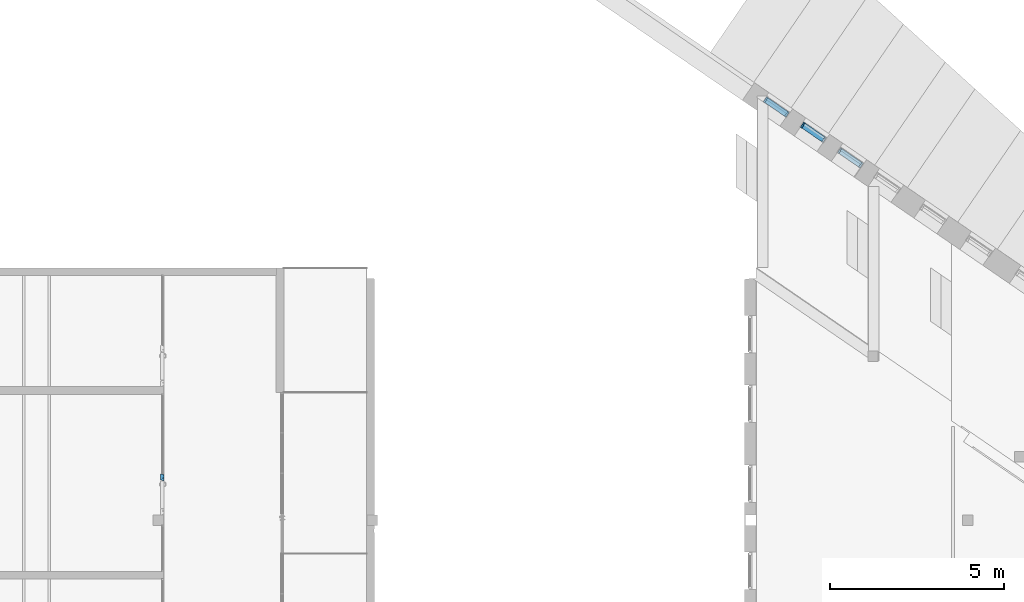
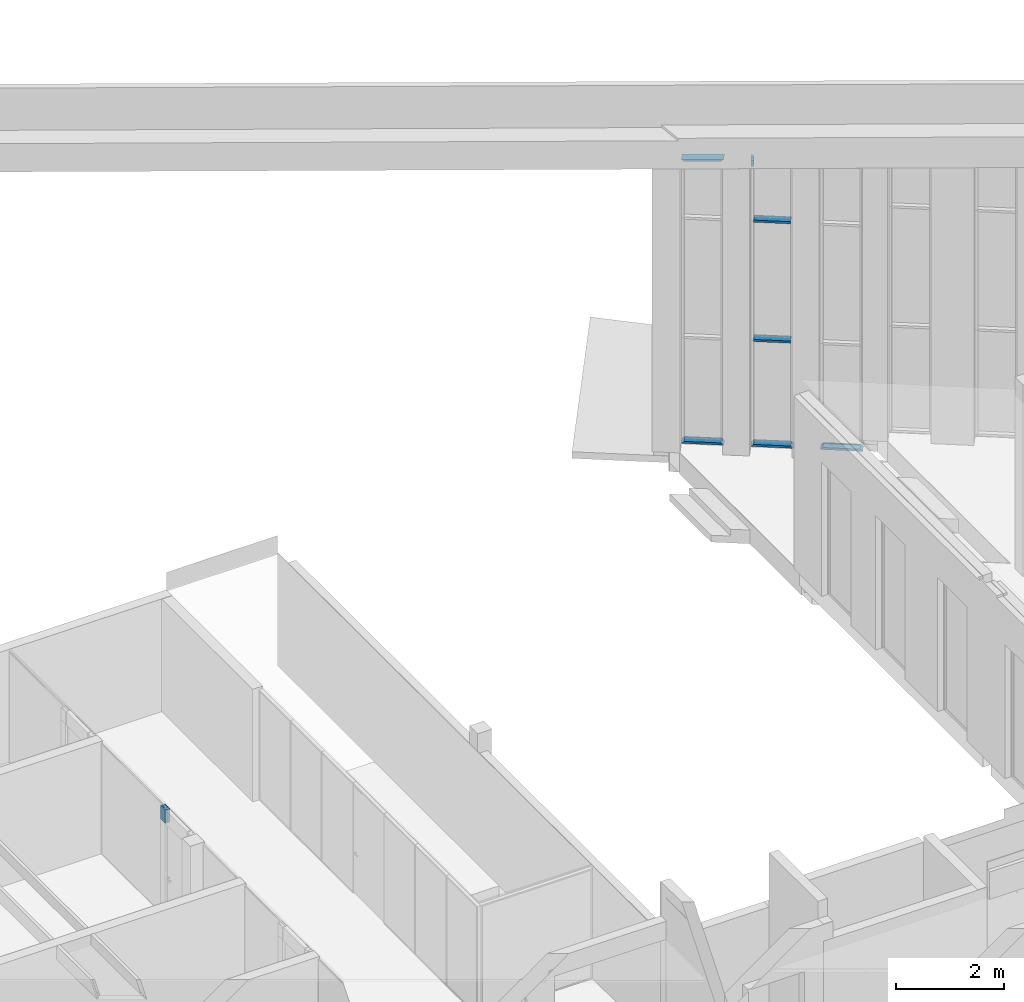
# One storey, part 28 of 79: 8 members, 4 elements without a shape of their own.
"""IFC2X3 building model written with IfcOpenShell, lengths in millimetres."""

from ifc_helpers import new_model, entity, si_unit, converted_unit, derived_unit, money_unit, direction, frame, origin_with_axes, place, context, subcontext, project, spatial, faceted_brep, material, material_list, type_object, element, aggregate, save


model = new_model("IFC2X3")

# Units and contexts
model_context = context("Model", 3, precision=0.01, world=origin_with_axes(), true_north=direction((0.0, 1.0)))
body_context = subcontext(model_context, "Body", "Model", "MODEL_VIEW")
ifc_project = project(units=[si_unit("LENGTHUNIT", "METRE", prefix="MILLI"), si_unit("AREAUNIT", "SQUARE_METRE"), si_unit("VOLUMEUNIT", "CUBIC_METRE"), converted_unit("PLANEANGLEUNIT", "DEGREE", entity("IfcPlaneAngleMeasure", 0.0174532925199), si_unit("PLANEANGLEUNIT", "RADIAN"), dimensions=[0, 0, 0, 0, 0, 0, 0]), si_unit("SOLIDANGLEUNIT", "STERADIAN"), money_unit("EUR"), converted_unit("TIMEUNIT", "Year", entity("IfcTimeMeasure", 31556926.0), si_unit("TIMEUNIT", "SECOND"), dimensions=[0, 0, 1, 0, 0, 0, 0]), si_unit("MASSUNIT", "GRAM", prefix="KILO"), si_unit("THERMODYNAMICTEMPERATUREUNIT", "DEGREE_CELSIUS"), si_unit("LUMINOUSINTENSITYUNIT", "LUMEN"), si_unit("ENERGYUNIT", "JOULE", prefix="MEGA"), derived_unit("THERMALCONDUCTANCEUNIT", [(si_unit("POWERUNIT", "WATT"), 1), (si_unit("LENGTHUNIT", "METRE"), -1), (si_unit("THERMODYNAMICTEMPERATUREUNIT", "KELVIN"), -1)]), derived_unit("SPECIFICHEATCAPACITYUNIT", [(si_unit("ENERGYUNIT", "JOULE"), 1), (si_unit("MASSUNIT", "GRAM", prefix="KILO"), -1), (si_unit("THERMODYNAMICTEMPERATUREUNIT", "KELVIN"), -1)]), derived_unit("MASSDENSITYUNIT", [(si_unit("MASSUNIT", "GRAM", prefix="KILO"), 1), (si_unit("VOLUMEUNIT", "CUBIC_METRE"), -1)])], contexts=[model_context])

# Site, building, storey
site_placement = place(None, origin_with_axes())
site = spatial("IfcSite", under=ifc_project, at=site_placement, Name="L.Koidula tn 11b", CompositionType="ELEMENT")
building_placement = place(site_placement, origin_with_axes())
building = spatial("IfcBuilding", under=site, at=building_placement, Name="Rakvere Riigigümnaasium", CompositionType="ELEMENT")
storey_placement = place(building_placement, frame((0.0, 0.0, 3720.0), z_axis=(0.0, 0.0, 1.0), x_axis=(1.0, 0.0, 0.0)))
storey = spatial("IfcBuildingStorey", under=building, at=storey_placement, Name="2.korrus +3,72", CompositionType="ELEMENT", Elevation=3720.0)

# Curtain wall, members
curtain_wall_type = type_object("IfcCurtainWallType", Name="Curtain Wall Type", PredefinedType="NOTDEFINED")
curtain_wall_1_placement = place(storey_placement, frame((59849.7544247, 35428.7459613, -1860.00000854), z_axis=(0.0, 0.0, 1.0), x_axis=(1.0, 0.0, 0.0)))
curtain_wall_1 = element("IfcCurtainWall", 1, at=curtain_wall_1_placement, inside=storey, type_object=curtain_wall_type, Name="KLF-06-20")
ifc_material_1 = material(Name="Alumiiniumprofiil (RAL 7021)")
member_type_1 = type_object("IfcMemberType", Name="Transom Frame 50 x 170", PredefinedType="MULLION")
member_1_placement = place(curtain_wall_1_placement, frame((-325.751174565, 223.425259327, 5100.00006547), z_axis=(0.824666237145, -0.565619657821, 0.0), x_axis=(0.0, 0.0, 1.0)))
member_1 = element("IfcMember", 2, at=member_1_placement, type_object=member_type_1, material=ifc_material_1, Name="KLF-06-27-Profiilid", ObjectType="MULLION", context=body_context, shape_type="Brep", body=[
    faceted_brep([(-12.0, 26.0, 739.880787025), (-12.0, -26.0, 739.880787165), (-25.0, -26.0, 739.880787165), (-25.0, -46.0, 739.880787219), (25.0, -46.0, 739.880787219), (25.0, -26.0, 739.880787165), (12.0, -26.0, 739.880787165), (12.0, 26.0, 739.880787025), (25.0, 26.0, 739.880787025), (25.0, 124.0, 739.880786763), (-25.0, 124.0, 739.880786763), (-25.0, 26.0, 739.880787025), (-12.0, 26.0, 50.0025130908), (-12.0, -26.0, 49.9974873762), (-25.0, -26.0, 49.9974873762), (-25.0, -46.0, 49.9955544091), (25.0, -46.0, 49.9955544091), (25.0, -26.0, 49.9974873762), (12.0, -26.0, 49.9974873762), (12.0, 26.0, 50.0025130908), (25.0, 26.0, 50.0025130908), (25.0, 124.0, 50.0119846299), (-25.0, 124.0, 50.0119846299), (-25.0, 26.0, 50.0025130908)], [[[0, 1, 2, 3, 4, 5, 6, 7, 8, 9, 10, 11]], [[0, 12, 13, 1]], [[1, 13, 14, 2]], [[14, 15, 3, 2]], [[4, 3, 15, 16]], [[17, 5, 4, 16]], [[5, 17, 18, 6]], [[7, 6, 18, 19]], [[8, 7, 19, 20]], [[8, 20, 21, 9]], [[10, 9, 21, 22]], [[11, 10, 22, 23]], [[11, 23, 12, 0]], [[13, 12, 23, 22, 21, 20, 19, 18, 17, 16, 15, 14]]]),
])
member_2_placement = place(curtain_wall_1_placement, frame((-325.522429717, 223.268368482, 2400.00006547), z_axis=(0.824666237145, -0.565619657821, 0.0), x_axis=(0.0, 0.0, 1.0)))
member_2 = element("IfcMember", 3, at=member_2_placement, type_object=member_type_1, material=ifc_material_1, Name="KLF-06-28-Profiilid", ObjectType="MULLION", context=body_context, shape_type="Brep", body=[
    faceted_brep([(-12.0, 26.0, 739.60331099), (-12.0, -26.0, 739.603312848), (-25.0, -26.0, 739.603312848), (-25.0, -46.0, 739.603313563), (25.0, -46.0, 739.603313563), (25.0, -26.0, 739.603312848), (12.0, -26.0, 739.603312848), (12.0, 26.0, 739.60331099), (25.0, 26.0, 739.60331099), (25.0, 124.0, 739.603307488), (-25.0, 124.0, 739.603307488), (-25.0, 26.0, 739.60331099), (-12.0, 26.0, 50.0012330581), (-12.0, -26.0, 50.0012330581), (-25.0, -26.0, 50.0025685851), (-25.0, -46.0, 50.0025685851), (25.0, -46.0, 49.9974319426), (25.0, -26.0, 49.9974319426), (12.0, -26.0, 49.9987674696), (12.0, 26.0, 49.9987674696), (25.0, 26.0, 49.9974319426), (25.0, 124.0, 49.9974319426), (-25.0, 124.0, 50.0025685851), (-25.0, 26.0, 50.0025685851)], [[[0, 1, 2, 3, 4, 5, 6, 7, 8, 9, 10, 11]], [[0, 12, 13, 1]], [[1, 13, 14, 2]], [[14, 15, 3, 2]], [[4, 3, 15, 16]], [[17, 5, 4, 16]], [[5, 17, 18, 6]], [[7, 6, 18, 19]], [[8, 7, 19, 20]], [[8, 20, 21, 9]], [[10, 9, 21, 22]], [[11, 10, 22, 23]], [[11, 23, 12, 0]], [[13, 12, 23, 22, 21, 20, 19, 18, 17, 16, 15, 14]]]),
])

curtain_wall_2_placement = place(storey_placement, frame((58784.8898209, 36159.1031473, -1860.00002162), z_axis=(0.0, 0.0, 1.0), x_axis=(1.0, 0.0, 0.0)))
curtain_wall_2 = element("IfcCurtainWall", 4, at=curtain_wall_2_placement, inside=storey, type_object=curtain_wall_type, Name="KLF-06-21")
member_type_2 = type_object("IfcMemberType", Name="Boundary Frame 50 x 170", PredefinedType="MULLION")
member_3_placement = place(curtain_wall_2_placement, frame((-325.567701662, 223.299419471, 0.0), z_axis=(0.824666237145, -0.565619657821, 0.0), x_axis=(0.0, 0.0, 1.0)))
member_3 = element("IfcMember", 5, at=member_3_placement, type_object=member_type_2, material=ifc_material_1, Name="KLF-06-47-Profiilid", ObjectType="MULLION", context=body_context, shape_type="Brep", body=[
    faceted_brep([(37.0, 26.0, 752.574268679), (50.0, 26.0, 739.574268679), (50.0, 124.0, 739.574268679), (0.0, 124.0, 789.574268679), (0.0, -46.0, 789.574268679), (50.0, -46.0, 739.574268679), (50.0, -26.0, 739.574268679), (37.0, -26.0, 752.574268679), (37.0, 26.0, 37.0000014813), (50.0, 26.0, 50.0000020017), (50.0, 124.0, 50.0000020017), (0.0, 124.0, 0.0), (0.0, -46.0, 0.0), (50.0, -46.0, 50.0000020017), (50.0, -26.0, 50.0000020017), (37.0, -26.0, 37.0000014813)], [[[0, 1, 2, 3, 4, 5, 6, 7]], [[0, 8, 9, 1]], [[9, 10, 2, 1]], [[2, 10, 11, 3]], [[3, 11, 12, 4]], [[4, 12, 13, 5]], [[6, 5, 13, 14]], [[14, 15, 7, 6]], [[7, 15, 8, 0]], [[8, 15, 14, 13, 12, 11, 10, 9]]]),
])
member_4_placement = place(curtain_wall_2_placement, frame((325.567593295, -223.299345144, 6470.95663385), z_axis=(-0.823213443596, 0.564623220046, -0.0593316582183), x_axis=(0.0489288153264, -0.0335591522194, -0.998238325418)))
member_4 = element("IfcMember", 6, at=member_4_placement, type_object=member_type_2, material=ifc_material_1, Name="KLF-06-51-Profiilid", ObjectType="MULLION", context=body_context, shape_type="Brep", body=[
    faceted_brep([(37.0, 26.0, 756.101544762), (50.0, 26.0, 743.851274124), (50.0, 124.0, 743.851274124), (0.0, 124.0, 790.967699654), (0.0, -46.0, 790.967699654), (50.0, -46.0, 743.851274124), (50.0, -26.0, 743.851274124), (37.0, -26.0, 756.101544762), (37.0, 26.0, 39.2644422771), (50.0, 26.0, 53.0600571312), (50.0, 124.0, 53.0600571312), (0.0, 124.0, 0.0), (0.0, -46.0, 0.0), (50.0, -46.0, 53.0600571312), (50.0, -26.0, 53.0600571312), (37.0, -26.0, 39.2644422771)], [[[0, 1, 2, 3, 4, 5, 6, 7]], [[0, 8, 9, 1]], [[9, 10, 2, 1]], [[2, 10, 11, 3]], [[3, 11, 12, 4]], [[4, 12, 13, 5]], [[6, 5, 13, 14]], [[14, 15, 7, 6]], [[7, 15, 8, 0]], [[8, 15, 14, 13, 12, 11, 10, 9]]]),
])
aggregate(curtain_wall_2, [member_3, member_4])

# Member
member_5_placement = place(curtain_wall_1_placement, frame((-325.331139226, 223.137166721, 0.0), z_axis=(0.824666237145, -0.565619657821, 0.0), x_axis=(0.0, 0.0, 1.0)))
member_5 = element("IfcMember", 7, at=member_5_placement, type_object=member_type_2, material=ifc_material_1, Name="KLF-06-47-Profiilid", ObjectType="MULLION", context=body_context, shape_type="Brep", body=[
    faceted_brep([(37.0, 26.0, 752.371350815), (50.0, 26.0, 739.371350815), (50.0, 124.0, 739.371350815), (0.0, 124.0, 789.371350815), (0.0, -46.0, 789.371350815), (50.0, -46.0, 739.371350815), (50.0, -26.0, 739.371350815), (37.0, -26.0, 752.371350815), (37.0, 26.0, 36.9964241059), (50.0, 26.0, 49.9951677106), (50.0, 124.0, 49.9951677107), (0.0, 124.0, 0.0), (0.0, -46.0, 0.0), (50.0, -46.0, 49.9951677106), (50.0, -26.0, 49.9951677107), (37.0, -26.0, 36.9964241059)], [[[0, 1, 2, 3, 4, 5, 6, 7]], [[0, 8, 9, 1]], [[9, 10, 2, 1]], [[2, 10, 11, 3]], [[3, 11, 12, 4]], [[4, 12, 13, 5]], [[6, 5, 13, 14]], [[14, 15, 7, 6]], [[7, 15, 8, 0]], [[8, 15, 14, 13, 12, 11, 10, 9]]]),
])

member_6_placement = place(curtain_wall_1_placement, frame((-325.849222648, 223.492508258, 6500.75493294), z_axis=(-2.72531671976e-07, 1.86923242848e-07, -1.0), x_axis=(0.824666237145, -0.565619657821, -3.3047512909e-07)))
member_6 = element("IfcMember", 8, at=member_6_placement, type_object=member_type_2, material=ifc_material_1, Name="KLF-06-52-Profiilid", ObjectType="MULLION", context=body_context, shape_type="Brep", body=[
    faceted_brep([(37.0000561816, 26.0, 170.002362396), (50.0000561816, 26.0, 170.0023581), (50.0000561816, 124.0, 170.0023581), (5.61815554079e-05, 124.0, 170.002374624), (5.61815554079e-05, -46.0, 170.002374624), (50.0000561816, -46.0, 170.0023581), (50.0000561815, -26.0, 170.0023581), (37.0000561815, -26.0, 170.002362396), (37.0000115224, 26.0, 34.8661271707), (50.0000155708, 26.0, 47.1163880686), (50.0000155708, 124.0, 47.1163880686), (0.0, 124.0, 0.0), (0.0, -46.0, 0.0), (50.0000155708, -46.0, 47.1163880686), (50.0000155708, -26.0, 47.1163880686), (37.0000115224, -26.0, 34.8661271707)], [[[0, 1, 2, 3, 4, 5, 6, 7]], [[0, 8, 9, 1]], [[9, 10, 2, 1]], [[2, 10, 11, 3]], [[3, 11, 12, 4]], [[4, 12, 13, 5]], [[6, 5, 13, 14]], [[14, 15, 7, 6]], [[7, 15, 8, 0]], [[8, 15, 14, 13, 12, 11, 10, 9]]]),
])

aggregate(curtain_wall_1, [member_1, member_2, member_5, member_6])

# Curtain wall, member
curtain_wall_3_placement = place(storey_placement, frame((60913.4534613, 34699.1792069, -1860.00008737), z_axis=(0.0, 0.0, 1.0), x_axis=(1.0, 0.0, 0.0)))
curtain_wall_3 = element("IfcCurtainWall", 9, at=curtain_wall_3_placement, inside=storey, type_object=curtain_wall_type, Name="KLF-06-19")
member_7_placement = place(curtain_wall_3_placement, frame((-325.743105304, 223.419724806, 0.0), z_axis=(0.824666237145, -0.565619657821, 0.0), x_axis=(0.0, 0.0, 1.0)))
member_7 = element("IfcMember", 10, at=member_7_placement, type_object=member_type_2, material=ifc_material_1, Name="KLF-06-62-Profiilid", ObjectType="MULLION", context=body_context, shape_type="Brep", body=[
    faceted_brep([(37.0, 26.0, 752.999673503), (50.0, 26.0, 739.999674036), (50.0, 124.0, 739.999674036), (0.0, 124.0, 789.999671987), (0.0, -46.0, 789.999671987), (50.0, -46.0, 739.999674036), (50.0, -26.0, 739.999674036), (37.0, -26.0, 752.999673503), (37.0, 26.0, 37.0), (50.0, 26.0, 50.0), (50.0, 124.0, 50.0), (0.0, 124.0, 0.0), (0.0, -46.0, 0.0), (50.0, -46.0, 50.0), (50.0, -26.0, 50.0), (37.0, -26.0, 37.0)], [[[0, 1, 2, 3, 4, 5, 6, 7]], [[0, 8, 9, 1]], [[9, 10, 2, 1]], [[2, 10, 11, 3]], [[3, 11, 12, 4]], [[4, 12, 13, 5]], [[6, 5, 13, 14]], [[14, 15, 7, 6]], [[7, 15, 8, 0]], [[8, 15, 14, 13, 12, 11, 10, 9]]]),
])
aggregate(curtain_wall_3, [member_7])

curtain_wall_4_placement = place(storey_placement, frame((41130.915445, 24920.4555468, 0.0), z_axis=(0.0, 0.0, 1.0), x_axis=(1.0, 0.0, 0.0)))
curtain_wall_4 = element("IfcCurtainWall", 11, at=curtain_wall_4_placement, inside=storey, type_object=curtain_wall_type, Name="SKLF-15")
ifc_material_2 = material(Name="Puit")
ifc_material_3 = material(Name="MDF")
ifc_material_4 = material(Name="Klaasvill")
ifc_material_5 = material(Name="Alumiiniumprofiil")
ifc_material_list = material_list([ifc_material_2, ifc_material_3, ifc_material_4, ifc_material_5])
member_type_3 = type_object("IfcMemberType", Name="Siseklaasfassaad - Ukseraam-2 195 x 29", PredefinedType="MULLION")
member_8_placement = place(curtain_wall_4_placement, frame((0.021911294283, 519.999999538, 2200.0), z_axis=(0.0, 0.0, 1.0), x_axis=(-4.21371043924e-05, -0.999999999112, 0.0)))
member_8 = element("IfcMember", 12, at=member_8_placement, type_object=member_type_3, material=ifc_material_list, Name="Frame-Siseklaasf-005", ObjectType="MULLION", context=body_context, shape_type="Brep", body=[
    faceted_brep([(0.0, -50.8404412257, 0.0), (0.0, -50.8404412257, 308.0), (0.0, 15.2764635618, 308.0), (0.0, 15.2764635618, 0.0), (29.9999995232, -50.8404412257, 0.0), (29.9999995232, -50.8404412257, 308.0), (30.0000008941, -23.8404411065, 308.0), (41.9954210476, -23.8404411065, 308.0), (41.9954210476, 8.15955847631, 308.0), (41.9954210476, 15.2764635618, 308.0), (41.8573788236, 15.2764635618, 308.0), (41.8573788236, 15.2764635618, 0.0), (41.9954210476, 15.2764635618, 0.0), (41.9954210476, 8.15955847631, 0.0), (41.9954210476, -23.8404411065, 0.0), (30.0000008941, -23.8404411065, 0.0)], [[[0, 1, 2, 3]], [[4, 5, 1, 0]], [[1, 5, 6, 7, 8, 9, 10, 2]], [[3, 2, 10, 11]], [[0, 3, 11, 12, 13, 14, 15, 4]], [[15, 6, 5, 4]], [[14, 7, 6, 15]], [[13, 8, 7, 14]], [[12, 9, 8, 13]], [[11, 10, 9, 12]]]),
    faceted_brep([(-137.859682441, 21.159534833, 0.0), (-137.859682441, 21.159534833, 308.0), (-137.859682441, 29.159535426, 308.0), (-137.859682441, 29.159535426, 0.0), (-30.0029064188, 21.1595377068, 0.0), (-30.0029064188, 21.1595377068, 308.0), (52.9999994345, 21.1595377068, 308.0), (52.9999994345, 29.1595584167, 308.0), (52.9999994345, 29.1595584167, 0.0), (52.9999994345, 21.1595377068, 0.0)], [[[0, 1, 2, 3]], [[4, 5, 1, 0]], [[1, 5, 6, 7, 2]], [[3, 2, 7, 8]], [[0, 3, 8, 9, 4]], [[9, 6, 5, 4]], [[8, 7, 6, 9]]]),
    faceted_brep([(-137.859682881, -54.8404422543, 0.0), (-137.859682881, -54.8404422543, 308.0), (-121.188402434, -54.8405744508, 308.0), (-121.188402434, -54.8405744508, 0.0), (-137.859682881, -62.8404399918, 0.0), (-137.859682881, -62.8404399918, 308.0), (28.0000003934, -62.8404428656, 308.0), (28.0000003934, -54.8404422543, 308.0), (1.12772013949e-06, -54.8404422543, 308.0), (-30.0029066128, -54.8404422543, 308.0), (-109.859683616, -54.8405744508, 308.0), (-109.859683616, -54.8405744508, 0.0), (-30.0029066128, -54.8404422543, 0.0), (1.12772013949e-06, -54.8404422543, 0.0), (28.0000003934, -54.8404422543, 0.0), (28.0000003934, -62.8404428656, 0.0)], [[[0, 1, 2, 3]], [[4, 5, 1, 0]], [[1, 5, 6, 7, 8, 9, 10, 2]], [[3, 2, 10, 11]], [[0, 3, 11, 12, 13, 14, 15, 4]], [[15, 6, 5, 4]], [[14, 7, 6, 15]], [[13, 8, 7, 14]], [[12, 9, 8, 13]], [[11, 10, 9, 12]]]),
    faceted_brep([(-120.859682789, -33.3330734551, 0.0), (-120.859682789, -33.3330734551, 308.0), (-120.859682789, -20.34054937, 308.0), (-120.859682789, -20.34054937, 0.0), (-30.0029064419, -33.3311238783, 0.0), (-30.0029064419, -33.3311238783, 308.0), (-30.0029050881, -20.3386011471, 308.0), (-107.859682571, -20.338601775, 308.0), (-107.859682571, -20.338601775, 0.0), (-30.0029050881, -20.3386011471, 0.0)], [[[0, 1, 2, 3]], [[4, 5, 1, 0]], [[1, 5, 6, 7, 2]], [[3, 2, 7, 8]], [[0, 3, 8, 9, 4]], [[9, 6, 5, 4]], [[8, 7, 6, 9]]]),
    faceted_brep([(-120.859682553, -49.8405506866, 0.0), (-120.859682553, -49.8405506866, 308.0), (-120.859682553, -36.8405491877, 308.0), (-120.859682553, -36.8405491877, 0.0), (-109.8596833, -49.8405506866, 0.0), (-109.8596833, -49.8405506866, 308.0), (-30.0046927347, -49.8404410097, 308.0), (-30.0046927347, -36.8404411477, 308.0), (-30.0046927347, -36.8404411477, 0.0), (-30.0046927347, -49.8404410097, 0.0)], [[[0, 1, 2, 3]], [[4, 5, 1, 0]], [[1, 5, 6, 7, 2]], [[3, 2, 7, 8]], [[0, 3, 8, 9, 4]], [[9, 6, 5, 4]], [[8, 7, 6, 9]]]),
    faceted_brep([(-107.859682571, -20.338601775, 0.0), (-107.859682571, -20.338601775, 308.0), (-107.859682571, 5.15955767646, 308.0), (-107.859682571, 5.15955767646, 0.0), (-30.0029050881, -20.338601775, 0.0), (-30.0029050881, -20.338601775, 308.0), (-30.0029050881, -5.24044086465, 308.0), (-30.0029050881, 15.1595587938, 308.0), (-30.0029050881, 17.1595580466, 308.0), (-89.8596820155, 17.1595604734, 308.0), (-107.859682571, 17.1595604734, 308.0), (-107.859682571, 11.1594268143, 308.0), (-107.859682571, 11.1594268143, 0.0), (-107.859682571, 17.1595604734, 0.0), (-89.8596820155, 17.1595604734, 0.0), (-30.0029050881, 17.1595580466, 0.0), (-30.0029050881, 15.1595587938, 0.0), (-30.0029050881, -5.24044086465, 0.0)], [[[0, 1, 2, 3]], [[4, 5, 1, 0]], [[1, 5, 6, 7, 8, 9, 10, 11, 2]], [[3, 2, 11, 12]], [[0, 3, 12, 13, 14, 15, 16, 17, 4]], [[17, 6, 5, 4]], [[16, 7, 6, 17]], [[15, 8, 7, 16]], [[14, 9, 8, 15]], [[13, 10, 9, 14]], [[12, 11, 10, 13]]]),
    faceted_brep([(-30.0029058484, -54.8404413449, 0.0), (-30.0029058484, -54.8404413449, 308.0), (-30.0046927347, -49.8404410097, 308.0), (-30.0046927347, -49.8404410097, 0.0), (0.0, -54.8404413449, 0.0), (0.0, -54.8404413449, 308.0), (27.9999994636, -54.8404413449, 308.0), (27.9999994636, -62.8404415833, 308.0), (29.9999995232, -62.8404415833, 308.0), (29.9999995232, -54.8404413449, 308.0), (29.9999995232, -50.8404412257, 308.0), (0.0, -50.8404412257, 308.0), (0.0, 15.2764635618, 308.0), (41.8573788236, 15.2764635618, 308.0), (41.8573788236, 17.1595580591, 308.0), (54.9999995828, 17.1595580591, 308.0), (54.9999995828, 20.2336043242, 308.0), (54.9999995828, 29.1595584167, 308.0), (53.0000007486, 29.1595584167, 308.0), (53.0000007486, 21.1595363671, 308.0), (-30.0029058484, 21.1595363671, 308.0), (-30.0029050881, 17.1595580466, 308.0), (-30.0029058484, 15.1595579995, 308.0), (-12.999999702, 15.1595579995, 308.0), (-12.999999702, -5.24044206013, 308.0), (-30.0029058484, -5.24044206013, 308.0), (-30.0029050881, -20.3386011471, 308.0), (-30.0029064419, -33.3311238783, 308.0), (-30.0046927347, -36.8404411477, 308.0), (-30.0046927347, -36.8404411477, 0.0), (-30.0029064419, -33.3311238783, 0.0), (-30.0029050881, -20.3386011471, 0.0), (-30.0029058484, -5.24044206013, 0.0), (-12.999999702, -5.24044206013, 0.0), (-12.999999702, 15.1595579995, 0.0), (-30.0029058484, 15.1595579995, 0.0), (-30.0029050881, 17.1595580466, 0.0), (-30.0029058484, 21.1595363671, 0.0), (53.0000007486, 21.1595363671, 0.0), (53.0000007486, 29.1595584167, 0.0), (54.9999995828, 29.1595584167, 0.0), (54.9999995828, 20.2336043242, 0.0), (54.9999995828, 17.1595580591, 0.0), (41.8573788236, 17.1595580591, 0.0), (41.8573788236, 15.2764635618, 0.0), (0.0, 15.2764635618, 0.0), (0.0, -50.8404412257, 0.0), (29.9999995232, -50.8404412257, 0.0), (29.9999995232, -54.8404413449, 0.0), (29.9999995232, -62.8404415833, 0.0), (27.9999994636, -62.8404415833, 0.0), (27.9999994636, -54.8404413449, 0.0)], [[[0, 1, 2, 3]], [[4, 5, 1, 0]], [[1, 5, 6, 7, 8, 9, 10, 11, 12, 13, 14, 15, 16, 17, 18, 19, 20, 21, 22, 23, 24, 25, 26, 27, 28, 2]], [[3, 2, 28, 29]], [[0, 3, 29, 30, 31, 32, 33, 34, 35, 36, 37, 38, 39, 40, 41, 42, 43, 44, 45, 46, 47, 48, 49, 50, 51, 4]], [[51, 6, 5, 4]], [[50, 7, 6, 51]], [[49, 8, 7, 50]], [[48, 9, 8, 49]], [[47, 10, 9, 48]], [[46, 11, 10, 47]], [[45, 12, 11, 46]], [[44, 13, 12, 45]], [[43, 14, 13, 44]], [[42, 15, 14, 43]], [[41, 16, 15, 42]], [[40, 17, 16, 41]], [[39, 18, 17, 40]], [[38, 19, 18, 39]], [[37, 20, 19, 38]], [[36, 21, 20, 37]], [[35, 22, 21, 36]], [[34, 23, 22, 35]], [[33, 24, 23, 34]], [[32, 25, 24, 33]], [[31, 26, 25, 32]], [[30, 27, 26, 31]], [[29, 28, 27, 30]]]),
    faceted_brep([(-139.859682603, -62.8404415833, 0.0), (-139.859682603, -62.8404415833, 308.0), (-139.859682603, -15.2404414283, 308.0), (-139.859682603, -15.2404414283, 0.0), (-137.859683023, -62.8404415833, 0.0), (-137.859683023, -62.8404415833, 308.0), (-137.859681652, -54.8405734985, 308.0), (-121.188400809, -54.8405734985, 308.0), (-109.859683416, -54.8405734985, 308.0), (-109.859683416, -53.8404414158, 308.0), (-109.859683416, -49.8405505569, 308.0), (-120.859681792, -49.8405505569, 308.0), (-120.859682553, -36.8405491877, 308.0), (-120.859682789, -33.3330734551, 308.0), (-120.859682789, -20.34054937, 308.0), (-120.859681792, -17.2404410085, 308.0), (-107.859682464, -17.2404410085, 308.0), (-107.859682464, 5.1595578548, 308.0), (-107.859682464, 11.1594263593, 308.0), (-107.859682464, 17.1595594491, 308.0), (-89.8596821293, 17.1595594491, 308.0), (-89.8596821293, 19.1595576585, 308.0), (-107.859682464, 19.1595576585, 308.0), (-109.859682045, 19.1595576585, 308.0), (-109.859682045, 17.1595594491, 308.0), (-109.859682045, 11.1594263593, 308.0), (-137.859681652, 11.1594263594, 308.0), (-137.859682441, 21.159534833, 308.0), (-137.859681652, 29.1595363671, 308.0), (-139.859682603, 29.1595363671, 308.0), (-139.859682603, 5.1595578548, 308.0), (-137.859681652, 5.1595578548, 308.0), (-122.859682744, 5.1595578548, 308.0), (-122.859682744, -15.2404414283, 308.0), (-122.859682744, -15.2404414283, 0.0), (-122.859682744, 5.1595578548, 0.0), (-137.859681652, 5.1595578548, 0.0), (-139.859682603, 5.1595578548, 0.0), (-139.859682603, 29.1595363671, 0.0), (-137.859681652, 29.1595363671, 0.0), (-137.859682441, 21.159534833, 0.0), (-137.859681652, 11.1594263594, 0.0), (-109.859682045, 11.1594263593, 0.0), (-109.859682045, 17.1595594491, 0.0), (-109.859682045, 19.1595576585, 0.0), (-107.859682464, 19.1595576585, 0.0), (-89.8596821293, 19.1595576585, 0.0), (-89.8596821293, 17.1595594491, 0.0), (-107.859682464, 17.1595594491, 0.0), (-107.859682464, 11.1594263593, 0.0), (-107.859682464, 5.1595578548, 0.0), (-107.859682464, -17.2404410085, 0.0), (-120.859681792, -17.2404410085, 0.0), (-120.859682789, -20.34054937, 0.0), (-120.859682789, -33.3330734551, 0.0), (-120.859682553, -36.8405491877, 0.0), (-120.859681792, -49.8405505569, 0.0), (-109.859683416, -49.8405505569, 0.0), (-109.859683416, -53.8404414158, 0.0), (-109.859683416, -54.8405734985, 0.0), (-121.188400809, -54.8405734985, 0.0), (-137.859681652, -54.8405734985, 0.0)], [[[0, 1, 2, 3]], [[4, 5, 1, 0]], [[1, 5, 6, 7, 8, 9, 10, 11, 12, 13, 14, 15, 16, 17, 18, 19, 20, 21, 22, 23, 24, 25, 26, 27, 28, 29, 30, 31, 32, 33, 2]], [[3, 2, 33, 34]], [[0, 3, 34, 35, 36, 37, 38, 39, 40, 41, 42, 43, 44, 45, 46, 47, 48, 49, 50, 51, 52, 53, 54, 55, 56, 57, 58, 59, 60, 61, 4]], [[61, 6, 5, 4]], [[60, 7, 6, 61]], [[59, 8, 7, 60]], [[58, 9, 8, 59]], [[57, 10, 9, 58]], [[56, 11, 10, 57]], [[55, 12, 11, 56]], [[54, 13, 12, 55]], [[53, 14, 13, 54]], [[52, 15, 14, 53]], [[51, 16, 15, 52]], [[50, 17, 16, 51]], [[49, 18, 17, 50]], [[48, 19, 18, 49]], [[47, 20, 19, 48]], [[46, 21, 20, 47]], [[45, 22, 21, 46]], [[44, 23, 22, 45]], [[43, 24, 23, 44]], [[42, 25, 24, 43]], [[41, 26, 25, 42]], [[40, 27, 26, 41]], [[39, 28, 27, 40]], [[38, 29, 28, 39]], [[37, 30, 29, 38]], [[36, 31, 30, 37]], [[35, 32, 31, 36]], [[34, 33, 32, 35]]]),
])
aggregate(curtain_wall_4, [member_8])

save(model, "model.ifc")
